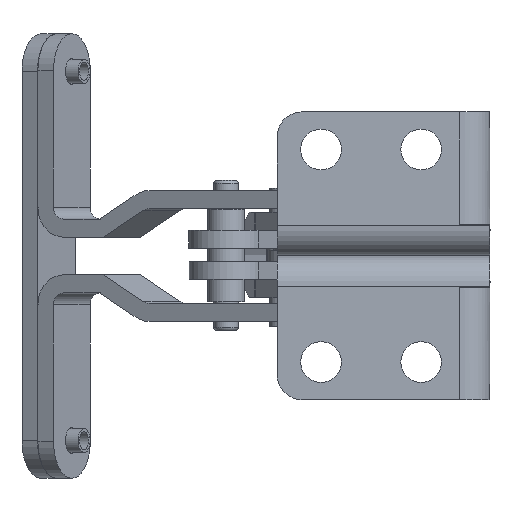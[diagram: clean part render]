
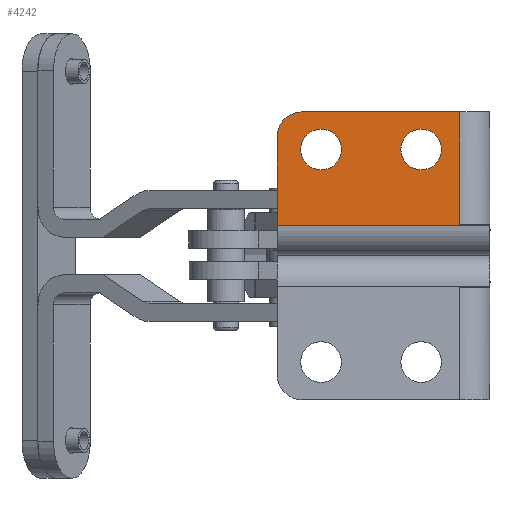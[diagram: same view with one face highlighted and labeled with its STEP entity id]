
A CAD part, front view. The second image highlights one B-rep face of the part: STEP entity #4242.
In plain terms, the highlighted planar face has unit normal (0, -1, 0).
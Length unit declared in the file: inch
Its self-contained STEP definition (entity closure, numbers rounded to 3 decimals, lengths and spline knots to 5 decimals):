
#286=LINE('',#7458,#558);
#295=LINE('',#7483,#567);
#297=LINE('',#7487,#569);
#298=LINE('',#7489,#570);
#299=LINE('',#7490,#571);
#300=LINE('',#7491,#572);
#558=VECTOR('',#5968,0.78653);
#567=VECTOR('',#5993,0.15228);
#569=VECTOR('',#5997,0.4413);
#570=VECTOR('',#5998,1.06381);
#571=VECTOR('',#5999,0.0043);
#572=VECTOR('',#6000,0.562);
#736=PLANE('',#4757);
#1008=FACE_BOUND('',#1639,.T.);
#1009=FACE_BOUND('',#1640,.T.);
#1254=FACE_OUTER_BOUND('',#1638,.T.);
#1638=EDGE_LOOP('',(#3867,#3868,#3869,#3870,#3871,#3872,#3873));
#1639=EDGE_LOOP('',(#3874));
#1640=EDGE_LOOP('',(#3875));
#1891=CIRCLE('',#4740,0.1015);
#1893=CIRCLE('',#4743,0.1015);
#1895=CIRCLE('',#4746,0.125);
#2286=VERTEX_POINT('',#7426);
#2288=VERTEX_POINT('',#7431);
#2291=VERTEX_POINT('',#7437);
#2292=VERTEX_POINT('',#7439);
#2299=VERTEX_POINT('',#7457);
#2306=VERTEX_POINT('',#7480);
#2307=VERTEX_POINT('',#7482);
#2308=VERTEX_POINT('',#7486);
#2309=VERTEX_POINT('',#7488);
#2814=EDGE_CURVE('',#2286,#2286,#1891,.T.);
#2816=EDGE_CURVE('',#2288,#2288,#1893,.T.);
#2819=EDGE_CURVE('',#2291,#2292,#1895,.T.);
#2828=EDGE_CURVE('',#2299,#2292,#286,.T.);
#2842=EDGE_CURVE('',#2307,#2306,#295,.T.);
#2844=EDGE_CURVE('',#2291,#2308,#297,.T.);
#2845=EDGE_CURVE('',#2309,#2308,#298,.T.);
#2846=EDGE_CURVE('',#2307,#2309,#299,.T.);
#2847=EDGE_CURVE('',#2306,#2299,#300,.T.);
#3867=ORIENTED_EDGE('',*,*,#2819,.F.);
#3868=ORIENTED_EDGE('',*,*,#2844,.T.);
#3869=ORIENTED_EDGE('',*,*,#2845,.F.);
#3870=ORIENTED_EDGE('',*,*,#2846,.F.);
#3871=ORIENTED_EDGE('',*,*,#2842,.T.);
#3872=ORIENTED_EDGE('',*,*,#2847,.T.);
#3873=ORIENTED_EDGE('',*,*,#2828,.T.);
#3874=ORIENTED_EDGE('',*,*,#2816,.T.);
#3875=ORIENTED_EDGE('',*,*,#2814,.T.);
#4242=ADVANCED_FACE('',(#1254,#1008,#1009),#736,.T.);
#4740=AXIS2_PLACEMENT_3D('',#7427,#5941,#5942);
#4743=AXIS2_PLACEMENT_3D('',#7432,#5947,#5948);
#4746=AXIS2_PLACEMENT_3D('',#7440,#5954,#5955);
#4757=AXIS2_PLACEMENT_3D('',#7485,#5995,#5996);
#5941=DIRECTION('center_axis',(0.,1.,0.));
#5942=DIRECTION('ref_axis',(-1.,0.,0.));
#5947=DIRECTION('center_axis',(0.,1.,0.));
#5948=DIRECTION('ref_axis',(-1.,0.,0.));
#5954=DIRECTION('center_axis',(0.,1.,0.));
#5955=DIRECTION('ref_axis',(-1.,0.,0.));
#5968=DIRECTION('',(-1.,0.,0.));
#5993=DIRECTION('',(-1.,0.,0.));
#5995=DIRECTION('center_axis',(0.,-1.,0.));
#5996=DIRECTION('ref_axis',(0.,0.,-1.));
#5997=DIRECTION('',(0.,0.,-1.));
#5998=DIRECTION('',(-1.,0.,0.));
#5999=DIRECTION('',(0.,0.,-1.));
#6000=DIRECTION('',(0.,0.,1.));
#7426=CARTESIAN_POINT('',(10.54992,7.72134,0.6121));
#7427=CARTESIAN_POINT('Origin',(10.44842,7.72134,0.6121));
#7431=CARTESIAN_POINT('',(10.04992,7.72134,0.6121));
#7432=CARTESIAN_POINT('Origin',(9.94842,7.72134,0.6121));
#7437=CARTESIAN_POINT('',(9.7287,7.72134,0.6751));
#7439=CARTESIAN_POINT('',(9.8537,7.72134,0.8001));
#7440=CARTESIAN_POINT('Origin',(9.8537,7.72134,0.6751));
#7457=CARTESIAN_POINT('',(10.64023,7.72134,0.8001));
#7458=CARTESIAN_POINT('',(10.64023,7.72134,0.8001));
#7480=CARTESIAN_POINT('',(10.64023,7.72134,0.2381));
#7482=CARTESIAN_POINT('',(10.79251,7.72134,0.2381));
#7483=CARTESIAN_POINT('',(10.79251,7.72134,0.2381));
#7485=CARTESIAN_POINT('Origin',(10.79251,7.72134,0.8001));
#7486=CARTESIAN_POINT('',(9.7287,7.72134,0.2338));
#7487=CARTESIAN_POINT('',(9.7287,7.72134,0.6751));
#7488=CARTESIAN_POINT('',(10.79251,7.72134,0.2338));
#7489=CARTESIAN_POINT('',(10.79251,7.72134,0.2338));
#7490=CARTESIAN_POINT('',(10.79251,7.72134,0.2381));
#7491=CARTESIAN_POINT('',(10.64023,7.72134,0.2381));
